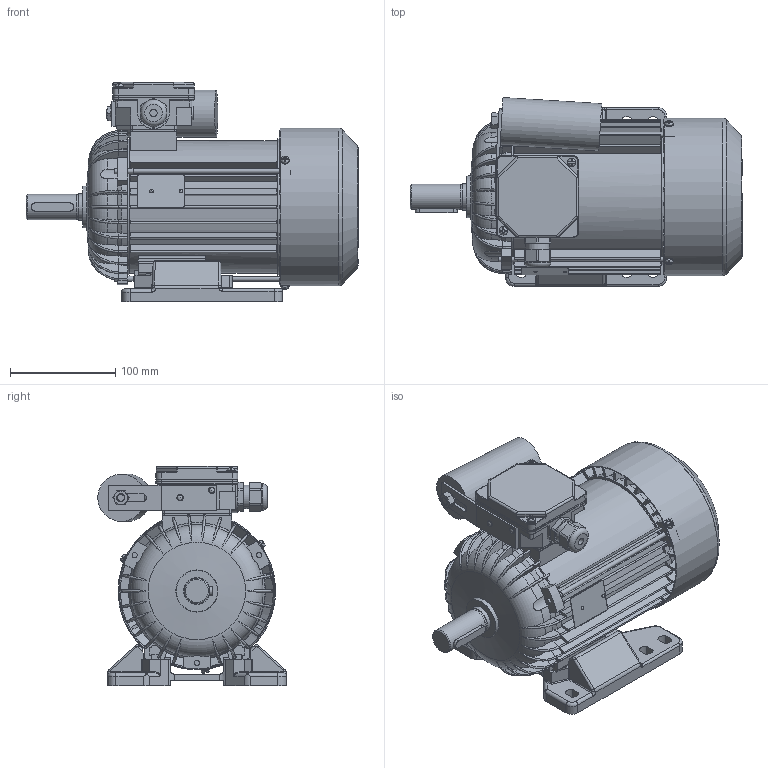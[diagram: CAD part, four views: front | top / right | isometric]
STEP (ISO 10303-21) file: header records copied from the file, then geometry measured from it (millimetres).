
FILE_DESCRIPTION( ( 'Unknown' ), '1' );
FILE_NAME( 'G:/Poczta Tk-1/STP/w.m.90/SEh90/SEh90-.S.stp', 'Unknown', ( 'K. Szlosek' ), ( 'BESEL S.A.' ), 'PSStep 17.0.49', 'Unknown', ' ' );
FILE_SCHEMA( ( 'AUTOMOTIVE_DESIGN { 1 0 10303 214 1 1 1 1 }' ) );
Length unit declared in the file: millimetre
Products named in the file (47): skrznka zaciskowa jednofazowa ; K4-2820 Uszczelka nr 2 Sh71,80; K2-1131 Podstawa skrzynki zaciskowej jednofazowa; K4-2999 Uchwyt kondensatora; Nit 4x12 po skróceniu; nakrętka M8; K4-0898 Tulejka uszczelniająca; Dławnica M20x1,5; K2-0860 Pokrywka skrzynki zaciskowej; Assem1; K1-1257 Kadłub S(E,M)h80-C i D; K2-1715 Przewietrznik; Wpust A8x7x40; K4-4741 Tarcza N Sh 90 ; K1-1130 Łapa wymiar 90; K3-7808 Wał Sh90-.S; Wkręt samogwintujący M4x12; Tabliczka znamionowa 32x44; Kondensator zb 25-31,5uF Comar; K4-4489 Osłona przewietrznika Sh80,90-A,C; K4-2320 Uszczelka nr 1 Sh71,80; K2-2027 Tarcza łożyskowa P S(E,M)h80-.A,C; Wkręt samogwintujący M4x8; Łożysko 6205; Łożysko 6204; Śruba ściągająca E_M5x168; Nitokołek A 2x6
Assembly tree (53 placements, depth 3):
  Assem1
    K1-1257 Kadłub S(E,M)h80-C i D
    K2-1715 Przewietrznik
    Wpust A8x7x40
    K4-4741 Tarcza N Sh 90 
    K1-1130 Łapa wymiar 90
    K3-7808 Wał Sh90-.S
    Wkręt samogwintujący M4x12  x2
    Tabliczka znamionowa 32x44
    Kondensator zb 25-31,5uF Comar
    K4-4489 Osłona przewietrznika Sh80,90-A,C
    K4-2320 Uszczelka nr 1 Sh71,80
    K2-2027 Tarcza łożyskowa P S(E,M)h80-.A,C
    Wkręt samogwintujący M4x8  x3
    Łożysko 6205
    Łożysko 6205
    Łożysko 6205
    Łożysko 6205
    Łożysko 6205
    Łożysko 6205
    Łożysko 6205
    Łożysko 6205
    Łożysko 6205
    Łożysko 6205
    Łożysko 6205
    Łożysko 6205
    Łożysko 6204
    Łożysko 6204
    Łożysko 6204
    Łożysko 6204
    Łożysko 6204
    Łożysko 6204
    Łożysko 6204
    Łożysko 6204
    Łożysko 6204
    Łożysko 6204
    Śruba ściągająca E_M5x168  x3
    Nitokołek A 2x6  x2
    skrznka zaciskowa jednofazowa 
      K4-2820 Uszczelka nr 2 Sh71,80
      K2-1131 Podstawa skrzynki zaciskowej jednofazowa
      K4-2999 Uchwyt kondensatora
      Nit 4x12 po skróceniu  x2
      nakrętka M8
      K4-0898 Tulejka uszczelniająca
      Dławnica M20x1,5
      K2-0860 Pokrywka skrzynki zaciskowej
Bounding box: 315.8 x 179.3 x 208.5 mm (x, y, z)
Volume: 1169937.7 mm3; surface area: 679004.3 mm2
Topology: 52 solids, 70 shells, 3497 faces, 9779 edges, 6274 vertices
Faces by surface type: plane 1646, cylinder 1135, bspline 363, cone 191, torus 110, sphere 52
Full cylindrical faces by diameter (mm): 2 x2, 2.4 x2, 3 x2, 3.7 x11, 4 x7, 4.134 x3, 4.3 x2, 4.5 x3, 4.6 x3, 4.8 x4, 5 x7, 5.5 x3, 6 x2, 6.5 x5, 6.647 x1, 7 x1, 8 x10, 10 x2, 18.376 x1, 18.38 x1, 19.3 x1, 19.5 x2, 19.6 x1, 19.9 x1, 20 x3, 20.4 x1, 22.3 x1, 23.6 x1, 24 x1, 24.6 x1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
Entity records: 187684 total; most frequent: CARTESIAN_POINT 78333, ORIENTED_EDGE 17978, DIRECTION 16450, EDGE_CURVE 8989, VERTEX_POINT 5983, AXIS2_PLACEMENT_3D 5966, LINE 4518, VECTOR 4518
